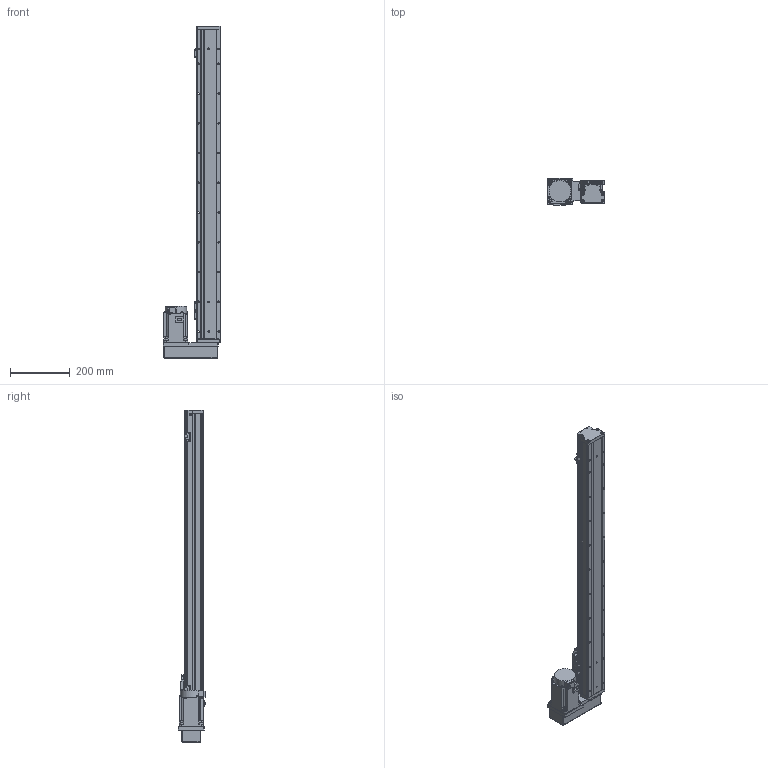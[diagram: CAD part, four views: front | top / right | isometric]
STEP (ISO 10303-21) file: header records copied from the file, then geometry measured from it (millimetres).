
FILE_DESCRIPTION (( 'STEP AP203' ), '1' );
FILE_NAME ('GTH8-850-BL-M75-C4.step', '2023-02-14T02:25:44', ( '微软用户' ), ( '微软中国' ), 'SwSTEP 2.0', 'SolidWorks 2020', '' );
FILE_SCHEMA (( 'CONFIG_CONTROL_DESIGN' ));
Length unit declared in the file: millimetre
Products named in the file (18): GTH80-006; GTH50-024; GTH8-850-BL-M75-C4; GTH80-013; GTH50-023; GBT 70.3-M3℅6; GBT96.1-2002 3×0.8; GTH80-022; BTH-M3X5X6; GTH80-001_850; GBT 70.1-M3℅6; CTHA86-015-3_CTHA86-015-4; GTH80-003; GBT 70.1-M4×16; CTHA86-035; GTH80-004; GTH80-028; hg-kn73j_-s100
Assembly tree (57 placements, depth 2):
  GTH8-850-BL-M75-C4
    GTH80-001_850
    GTH80-003
    GTH80-004
    GTH80-006
    GTH80-013
    GBT 70.3-M3℅6  x4
    GTH80-022
    GBT 70.1-M3℅6  x14
    GBT 70.1-M4×16  x8
    GTH80-028  x2
    GTH50-024  x3
    GTH50-023  x3
    GBT96.1-2002 3×0.8  x6
    BTH-M3X5X6  x8
    CTHA86-015-3_CTHA86-015-4
    CTHA86-035
    hg-kn73j_-s100
Bounding box: 193.5 x 92.3 x 1116 mm (x, y, z)
Volume: 6047182.7 mm3; surface area: 589829.5 mm2
Topology: 59 solids, 59 shells, 2207 faces, 5130 edges, 3144 vertices
Faces by surface type: plane 1153, cylinder 639, cone 243, torus 158, sphere 12, bspline 2
Entity records: 40032 total; most frequent: CARTESIAN_POINT 6719, DIRECTION 6613, ORIENTED_EDGE 6070, EDGE_CURVE 3035, AXIS2_PLACEMENT_3D 2338, VECTOR 1937, LINE 1937, VERTEX_POINT 1919
